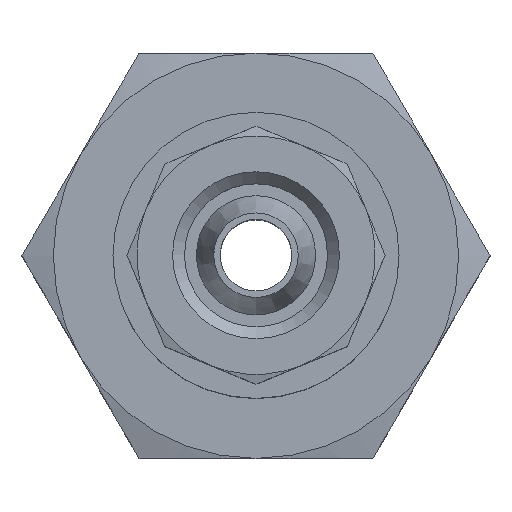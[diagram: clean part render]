
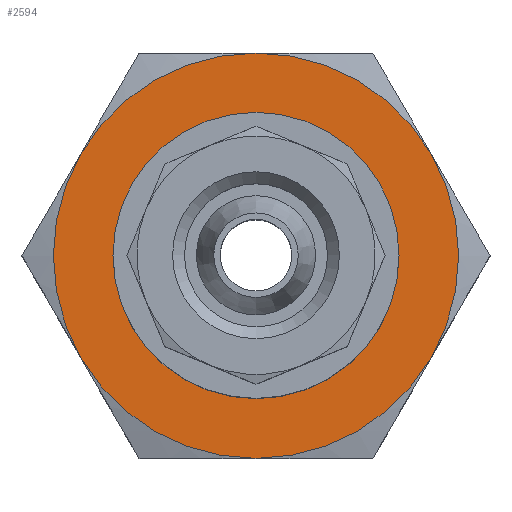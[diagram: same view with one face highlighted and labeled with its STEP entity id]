
A CAD part, top view. The second image highlights one B-rep face of the part: STEP entity #2594.
In plain terms, the highlighted planar face has unit normal (0, 0, 1) as drawn and (0, 1, 0) by its records, which use the part's own axes.
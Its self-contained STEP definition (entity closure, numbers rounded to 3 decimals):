
#1198=PLANE('',#2454);
#1272=ORIENTED_EDGE('',*,*,#1597,.T.);
#1273=ORIENTED_EDGE('',*,*,#1599,.F.);
#1274=ORIENTED_EDGE('',*,*,#1600,.T.);
#1275=ORIENTED_EDGE('',*,*,#1601,.T.);
#1276=ORIENTED_EDGE('',*,*,#1602,.T.);
#1277=ORIENTED_EDGE('',*,*,#1603,.T.);
#1278=ORIENTED_EDGE('',*,*,#1604,.F.);
#1472=CIRCLE('',#2452,8.5);
#1473=CIRCLE('',#2455,8.5);
#1474=CIRCLE('',#2456,8.5);
#1475=CIRCLE('',#2457,8.5);
#1476=CIRCLE('',#2458,8.5);
#1477=CIRCLE('',#2459,8.5);
#1478=CIRCLE('',#2460,4.25);
#1519=VERTEX_POINT('',#2216);
#1522=VERTEX_POINT('',#2225);
#1523=VERTEX_POINT('',#2229);
#1524=VERTEX_POINT('',#2231);
#1525=VERTEX_POINT('',#2233);
#1526=VERTEX_POINT('',#2235);
#1527=VERTEX_POINT('',#2238);
#1597=EDGE_CURVE('',#1522,#1519,#1472,.T.);
#1599=EDGE_CURVE('',#1523,#1519,#1473,.T.);
#1600=EDGE_CURVE('',#1523,#1524,#1474,.T.);
#1601=EDGE_CURVE('',#1524,#1525,#1475,.T.);
#1602=EDGE_CURVE('',#1525,#1526,#1476,.T.);
#1603=EDGE_CURVE('',#1526,#1522,#1477,.T.);
#1604=EDGE_CURVE('',#1527,#1527,#1478,.T.);
#1697=EDGE_LOOP('',(#1272,#1273,#1274,#1275,#1276,#1277));
#1698=EDGE_LOOP('',(#1278));
#1785=FACE_BOUND('',#1697,.T.);
#1786=FACE_BOUND('',#1698,.T.);
#1910=DIRECTION('',(0.,1.,0.));
#1911=DIRECTION('',(7.361,0.,4.25));
#1914=DIRECTION('',(0.,1.,0.));
#1915=DIRECTION('',(1.,0.,0.));
#1916=DIRECTION('',(0.,-1.,0.));
#1917=DIRECTION('',(0.,0.,-8.5));
#1918=DIRECTION('',(0.,1.,0.));
#1919=DIRECTION('',(0.,0.,-8.5));
#1920=DIRECTION('',(0.,1.,0.));
#1921=DIRECTION('',(-7.361,0.,-4.25));
#1922=DIRECTION('',(0.,1.,0.));
#1923=DIRECTION('',(-7.361,0.,4.25));
#1924=DIRECTION('',(0.,1.,0.));
#1925=DIRECTION('',(0.,0.,8.5));
#1926=DIRECTION('',(0.,1.,0.));
#1927=DIRECTION('',(0.,0.,-4.25));
#2216=CARTESIAN_POINT('',(4.825,-13.676,-4.25));
#2225=CARTESIAN_POINT('',(4.825,-13.676,4.25));
#2226=CARTESIAN_POINT('',(-2.536,-13.676,0.));
#2228=CARTESIAN_POINT('',(-9.897,-13.676,-4.25));
#2229=CARTESIAN_POINT('',(-2.536,-13.676,-8.5));
#2230=CARTESIAN_POINT('',(-2.536,-13.676,0.));
#2231=CARTESIAN_POINT('',(-9.897,-13.676,-4.25));
#2232=CARTESIAN_POINT('',(-2.536,-13.676,0.));
#2233=CARTESIAN_POINT('',(-9.897,-13.676,4.25));
#2234=CARTESIAN_POINT('',(-2.536,-13.676,0.));
#2235=CARTESIAN_POINT('',(-2.536,-13.676,8.5));
#2236=CARTESIAN_POINT('',(-2.536,-13.676,0.));
#2237=CARTESIAN_POINT('',(-2.536,-13.676,0.));
#2238=CARTESIAN_POINT('',(-2.536,-13.676,-4.25));
#2239=CARTESIAN_POINT('',(-2.536,-13.676,0.));
#2452=AXIS2_PLACEMENT_3D('',#2226,#1910,#1911);
#2454=AXIS2_PLACEMENT_3D('',#2228,#1914,#1915);
#2455=AXIS2_PLACEMENT_3D('',#2230,#1916,#1917);
#2456=AXIS2_PLACEMENT_3D('',#2232,#1918,#1919);
#2457=AXIS2_PLACEMENT_3D('',#2234,#1920,#1921);
#2458=AXIS2_PLACEMENT_3D('',#2236,#1922,#1923);
#2459=AXIS2_PLACEMENT_3D('',#2237,#1924,#1925);
#2460=AXIS2_PLACEMENT_3D('',#2239,#1926,#1927);
#2594=ADVANCED_FACE('',(#1785,#1786),#1198,.T.);
